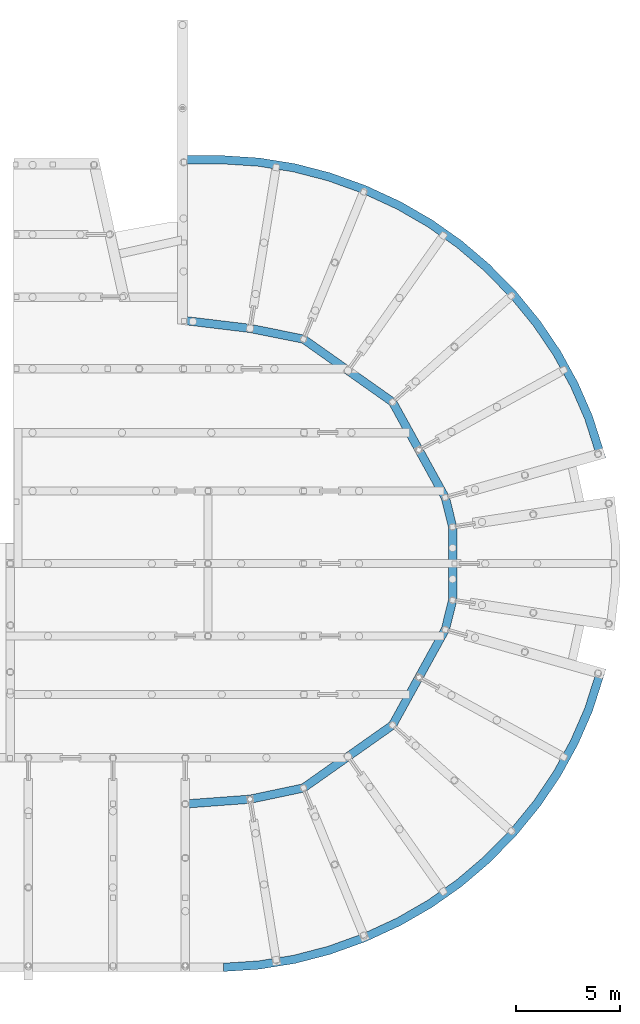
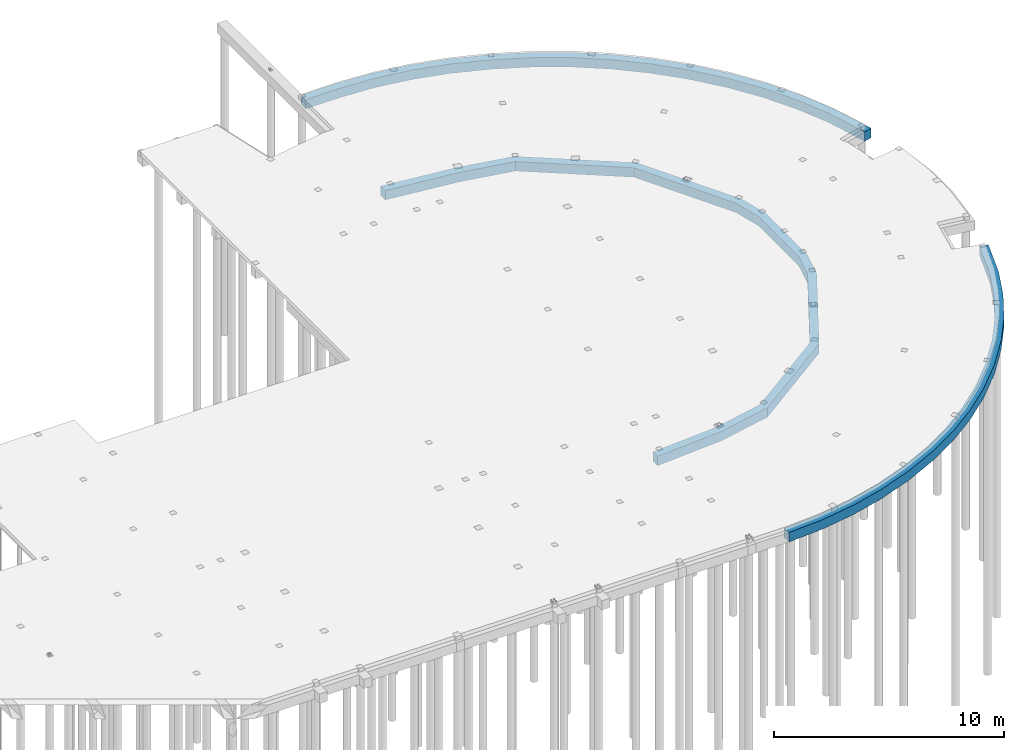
# One storey, part 14 of 22: 3 beams.
"""IFC2X3 building model written with IfcOpenShell, lengths in millimetres."""

from ifc_helpers import new_model, si_unit, frame, origin_with_axes, place, context, subcontext, project, spatial, faceted_brep, material, type_object, element, save


model = new_model("IFC2X3")

# Units and contexts
model_context = context("Model", 3, precision=1e-05, world=origin_with_axes())
body_context = subcontext(model_context, "Body", "Model", "MODEL_VIEW")
ifc_project = project(units=[si_unit("LENGTHUNIT", "METRE", prefix="MILLI"), si_unit("AREAUNIT", "SQUARE_METRE"), si_unit("VOLUMEUNIT", "CUBIC_METRE"), si_unit("MASSUNIT", "GRAM", prefix="KILO"), si_unit("TIMEUNIT", "SECOND"), si_unit("PLANEANGLEUNIT", "RADIAN"), si_unit("SOLIDANGLEUNIT", "STERADIAN"), si_unit("THERMODYNAMICTEMPERATUREUNIT", "DEGREE_CELSIUS"), si_unit("LUMINOUSINTENSITYUNIT", "LUMEN")], contexts=[model_context])

# Site, building, storey
site_placement = place(None, origin_with_axes())
site = spatial("IfcSite", under=ifc_project, at=site_placement, Name="Undefined", CompositionType="ELEMENT")
building_placement = place(site_placement, origin_with_axes())
building = spatial("IfcBuilding", under=site, at=building_placement, Name="Undefined", CompositionType="ELEMENT")
storey_placement = place(building_placement, origin_with_axes())
storey = spatial("IfcBuildingStorey", under=building, at=storey_placement, Name="Undefined", CompositionType="ELEMENT", Elevation=0.0)

# Beams
ifc_material = material(Name="CONCRETE/C30/37")
beam_type = type_object("IfcBeamType", Name="400*500", PredefinedType="NOTDEFINED")
beam_1_placement = place(storey_placement, frame((51200.5757738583, 185.390933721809, -520.0), z_axis=(0.0, 0.0, 1.0), x_axis=(0.999584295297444, 0.028831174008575, 0.0)))
element("IfcBeam", 1, at=beam_1_placement, inside=storey, type_object=beam_type, material=ifc_material, Name="BALK", context=body_context, shape_type="Brep", body=[
    faceted_brep([(17734.8170125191, 11968.866591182, 250.0), (17006.8515711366, 10426.9746135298, 250.0), (16140.8424051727, 8951.94555849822, 250.0), (15149.269239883, 7573.42245923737, 250.0), (13967.4899059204, 6207.2503414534, 250.0), (12666.8136143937, 4956.21239228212, 250.0), (11336.8975890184, 3888.59267311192, 250.0), (9915.86873042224, 2946.01750641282, 250.0), (8415.0887106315, 2136.12272711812, 250.0), (6754.3557615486, 1424.19048890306, 250.0), (5036.67913997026, 862.252996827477, 250.0), (3373.95138209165, 482.361506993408, 250.0), (1680.41014982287, 261.219065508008, 250.0), (18.6596427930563, 200.000000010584, 250.0), (-1.13352143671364e-07, 199.999999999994, 250.0), (1.13359419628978e-07, -199.999999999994, 250.0), (26.0251659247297, -199.999999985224, 250.0), (1713.74136234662, -137.824355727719, 250.0), (3444.55300204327, 88.1848517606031, 250.0), (5143.63688979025, 476.382803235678, 250.0), (6895.62243091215, 1049.54445005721, 250.0), (8589.22366989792, 1775.56684961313, 250.0), (10121.8268417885, 2602.63496837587, 250.0), (11573.1380212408, 3565.29654180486, 250.0), (12931.1894480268, 4655.50258129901, 250.0), (14258.0044882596, 5931.68173338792, 250.0), (15463.520390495, 7325.29403125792, 250.0), (16476.3943472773, 8733.43030898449, 250.0), (17360.892571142, 10239.9508293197, 250.0), (18105.3656307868, 11816.8073296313, 250.0), (18804.6165104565, 13808.0202645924, 250.0), (18422.7321033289, 13927.7993101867, 250.0), (17360.892571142, 10239.9508293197, -250.0), (18105.3656307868, 11816.8073296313, -250.0), (16476.3943472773, 8733.43030898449, -250.0), (15463.520390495, 7325.29403125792, -250.0), (14258.0044882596, 5931.68173338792, -250.0), (12931.1894480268, 4655.50258129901, -250.0), (11573.1380212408, 3565.29654180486, -250.0), (10121.8268417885, 2602.63496837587, -250.0), (8589.22366989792, 1775.56684961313, -250.0), (6895.62243091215, 1049.54445005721, -250.0), (5143.63688979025, 476.382803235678, -250.0), (3444.55300204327, 88.1848517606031, -250.0), (1713.74136234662, -137.824355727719, -250.0), (26.0251659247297, -199.999999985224, -250.0), (1.13359419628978e-07, -199.999999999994, -250.0), (-1.13352143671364e-07, 199.999999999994, -250.0), (18.6596427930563, 200.000000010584, -250.0), (1680.41014982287, 261.219065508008, -250.0), (3373.95138209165, 482.361506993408, -250.0), (5036.67913997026, 862.252996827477, -250.0), (6754.3557615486, 1424.19048890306, -250.0), (8415.0887106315, 2136.12272711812, -250.0), (9915.86873042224, 2946.01750641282, -250.0), (11336.8975890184, 3888.59267311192, -250.0), (12666.8136143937, 4956.21239228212, -250.0), (13967.4899059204, 6207.2503414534, -250.0), (15149.269239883, 7573.42245923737, -250.0), (16140.8424051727, 8951.94555849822, -250.0), (17006.8515711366, 10426.9746135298, -250.0), (17734.8170125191, 11968.866591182, -250.0), (18422.7321033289, 13927.7993101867, -250.0), (18804.6165104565, 13808.0202645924, -250.0)], [[[0, 1, 2, 3, 4, 5, 6, 7, 8, 9, 10, 11, 12, 13, 14, 15, 16, 17, 18, 19, 20, 21, 22, 23, 24, 25, 26, 27, 28, 29, 30, 31]], [[28, 32, 33, 29]], [[27, 34, 32, 28]], [[26, 35, 34, 27]], [[25, 36, 35, 26]], [[24, 37, 36, 25]], [[23, 38, 37, 24]], [[22, 39, 38, 23]], [[21, 40, 39, 22]], [[20, 41, 40, 21]], [[19, 42, 41, 20]], [[18, 43, 42, 19]], [[17, 44, 43, 18]], [[16, 45, 44, 17]], [[15, 46, 45, 16]], [[33, 32, 34, 35, 36, 37, 38, 39, 40, 41, 42, 43, 44, 45, 46, 47, 48, 49, 50, 51, 52, 53, 54, 55, 56, 57, 58, 59, 60, 61, 62, 63]], [[29, 33, 63, 30]], [[62, 31, 30, 63]], [[61, 0, 31, 62]], [[60, 1, 0, 61]], [[59, 2, 1, 60]], [[58, 3, 2, 59]], [[57, 4, 3, 58]], [[56, 5, 4, 57]], [[55, 6, 5, 56]], [[54, 7, 6, 55]], [[53, 8, 7, 54]], [[52, 9, 8, 53]], [[51, 10, 9, 52]], [[50, 11, 10, 51]], [[49, 12, 11, 50]], [[48, 13, 12, 49]], [[47, 14, 13, 48]], [[46, 15, 14, 47]]]),
])
beam_2_placement = place(storey_placement, frame((49428.2500276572, 39049.0842396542, -520.0), z_axis=(0.0, 0.0, 1.0), x_axis=(0.999999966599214, -0.000258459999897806, 0.0)))
element("IfcBeam", 2, at=beam_2_placement, inside=storey, type_object=beam_type, material=ifc_material, Name="BALK", context=body_context, shape_type="Brep", body=[
    faceted_brep([(18474.3061060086, -10910.468236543, 250.0), (18474.3061060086, -10910.468236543, -250.0), (19157.9181263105, -12472.5307065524, -250.0), (19157.9181263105, -12472.5307065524, 250.0), (17650.7962602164, -9411.2970913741, 250.0), (17650.7962602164, -9411.2970913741, -250.0), (16699.016233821, -8005.00478229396, 250.0), (16699.016233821, -8005.00478229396, -250.0), (15556.7547949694, -6605.62368524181, 250.0), (15556.7547949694, -6605.62368524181, -250.0), (14292.355234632, -5317.93252766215, 250.0), (14292.355234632, -5317.93252766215, -250.0), (12993.4871024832, -4212.74925125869, 250.0), (12993.4871024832, -4212.74925125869, -250.0), (11599.970461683, -3229.95612270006, 250.0), (11599.970461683, -3229.95612270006, -250.0), (10122.9441681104, -2377.51049433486, 250.0), (10122.9441681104, -2377.51049433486, -250.0), (8483.231185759, -1618.41710394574, 250.0), (8483.231185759, -1618.41710394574, -250.0), (6782.31200729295, -1007.63017755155, 250.0), (6782.31200729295, -1007.63017755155, -250.0), (5131.11768989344, -580.384970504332, 250.0), (5131.11768989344, -580.384970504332, -250.0), (3444.65879718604, -310.955107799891, 250.0), (3444.65879718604, -310.955107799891, -250.0), (1738.58828852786, -199.999999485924, 250.0), (1738.58828852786, -199.999999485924, -250.0), (1.13359419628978e-07, -199.999999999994, 250.0), (1.13359419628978e-07, -199.999999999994, -250.0), (-1.13352143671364e-07, 199.999999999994, -250.0), (1751.58165901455, 200.000000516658, -250.0), (3489.2879140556, 86.987446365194, -250.0), (5212.95322297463, -188.386539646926, -250.0), (6900.25148749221, -624.973614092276, -250.0), (8635.14487187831, -1247.96041516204, -250.0), (10307.3101288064, -2022.07735381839, -250.0), (11815.6558907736, -2892.59858722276, -250.0), (13238.8685632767, -3896.33517282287, -250.0), (14565.2152546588, -5024.89945563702, -250.0), (15855.0245365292, -6338.46840909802, -250.0), (17020.2288089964, -7765.95670348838, -250.0), (17992.4547980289, -9202.45872406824, -250.0), (18833.5463529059, -10733.6367615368, -250.0), (19532.660216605, -12331.1211478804, -250.0), (20174.7310319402, -14341.5006676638, -250.0), (19789.5801178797, -14450.3192945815, -250.0), (19789.5801178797, -14450.3192945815, 250.0), (19532.660216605, -12331.1211478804, 250.0), (18833.5463529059, -10733.6367615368, 250.0), (17992.4547980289, -9202.45872406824, 250.0), (17020.2288089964, -7765.95670348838, 250.0), (15855.0245365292, -6338.46840909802, 250.0), (14565.2152546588, -5024.89945563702, 250.0), (13238.8685632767, -3896.33517282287, 250.0), (11815.6558907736, -2892.59858722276, 250.0), (10307.3101288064, -2022.07735381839, 250.0), (8635.14487187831, -1247.96041516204, 250.0), (6900.25148749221, -624.973614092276, 250.0), (5212.95322297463, -188.386539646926, 250.0), (3489.2879140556, 86.987446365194, 250.0), (1751.58165901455, 200.000000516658, 250.0), (-1.13352143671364e-07, 199.999999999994, 250.0), (20174.7310319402, -14341.5006676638, 250.0)], [[[0, 1, 2, 3]], [[4, 5, 1, 0]], [[6, 7, 5, 4]], [[8, 9, 7, 6]], [[10, 11, 9, 8]], [[12, 13, 11, 10]], [[14, 15, 13, 12]], [[16, 17, 15, 14]], [[18, 19, 17, 16]], [[20, 21, 19, 18]], [[22, 23, 21, 20]], [[24, 25, 23, 22]], [[26, 27, 25, 24]], [[28, 29, 27, 26]], [[2, 1, 5, 7, 9, 11, 13, 15, 17, 19, 21, 23, 25, 27, 29, 30, 31, 32, 33, 34, 35, 36, 37, 38, 39, 40, 41, 42, 43, 44, 45, 46]], [[3, 2, 46, 47]], [[48, 49, 50, 51, 52, 53, 54, 55, 56, 57, 58, 59, 60, 61, 62, 28, 26, 24, 22, 20, 18, 16, 14, 12, 10, 8, 6, 4, 0, 3, 47, 63]], [[46, 45, 63, 47]], [[44, 48, 63, 45]], [[43, 49, 48, 44]], [[42, 50, 49, 43]], [[41, 51, 50, 42]], [[40, 52, 51, 41]], [[39, 53, 52, 40]], [[38, 54, 53, 39]], [[37, 55, 54, 38]], [[36, 56, 55, 37]], [[35, 57, 56, 36]], [[34, 58, 57, 35]], [[33, 59, 58, 34]], [[32, 60, 59, 33]], [[31, 61, 60, 32]], [[30, 62, 61, 31]], [[29, 28, 62, 30]]]),
])
beam_3_placement = place(storey_placement, frame((49348.8131956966, 8045.64904309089, -520.0), z_axis=(0.0, 0.0, 1.0), x_axis=(0.997283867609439, 0.0736538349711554, 0.0)))
element("IfcBeam", 3, at=beam_3_placement, inside=storey, type_object=beam_type, material=ifc_material, Name="BALK", context=body_context, shape_type="Brep", body=[
    faceted_brep([(4757.03404153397, 22400.9919504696, 250.0), (7237.84472454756, 21708.9748853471, 250.0), (11222.956734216, 18432.0259057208, 250.0), (13387.6629315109, 13709.3417623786, 250.0), (13621.8633384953, 12344.3188666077, 250.0), (13364.9955626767, 8865.81085328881, 250.0), (12932.8457015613, 7549.14505688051, 250.0), (10098.0277392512, 3199.11920325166, 250.0), (5671.35882349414, 543.235086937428, 250.0), (3130.92682646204, 200.000000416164, 250.0), (-172.932551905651, 199.999999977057, 250.0), (-202.474325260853, -200.000000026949, 250.0), (3157.82641149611, -199.99999958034, 250.0), (5806.53007703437, 157.863557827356, 250.0), (10382.8370017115, 2903.52651657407, 250.0), (13296.564007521, 7374.6382331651, 250.0), (13760.3062266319, 8787.55901179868, 250.0), (14024.3833817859, 12363.6965689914, 250.0), (13773.0637232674, 13828.4979860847, 250.0), (11548.1843162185, 18682.4604820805, 250.0), (7426.6689510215, 22071.5736457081, 250.0), (4849.43255832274, 22790.4884652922, 250.0), (1360.61137803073, 23475.2415732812, 250.0), (1330.93613124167, 23073.4343231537, 250.0), (7426.6689510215, 22071.5736457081, -250.0), (4849.43255832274, 22790.4884652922, -250.0), (11548.1843162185, 18682.4604820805, -250.0), (13773.0637232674, 13828.4979860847, -250.0), (14024.3833817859, 12363.6965689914, -250.0), (13760.3062266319, 8787.55901179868, -250.0), (13296.564007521, 7374.6382331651, -250.0), (10382.8370017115, 2903.52651657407, -250.0), (5806.53007703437, 157.863557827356, -250.0), (3157.82641149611, -199.99999958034, -250.0), (-202.474325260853, -200.000000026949, -250.0), (-172.932551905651, 199.999999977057, -250.0), (3130.92682646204, 200.000000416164, -250.0), (5671.35882349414, 543.235086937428, -250.0), (10098.0277392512, 3199.11920325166, -250.0), (12932.8457015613, 7549.14505688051, -250.0), (13364.9955626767, 8865.81085328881, -250.0), (13621.8633384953, 12344.3188666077, -250.0), (13387.6629315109, 13709.3417623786, -250.0), (11222.956734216, 18432.0259057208, -250.0), (7237.84472454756, 21708.9748853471, -250.0), (4757.03404153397, 22400.9919504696, -250.0), (1330.93613124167, 23073.4343231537, -250.0), (1360.61137803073, 23475.2415732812, -250.0)], [[[0, 1, 2, 3, 4, 5, 6, 7, 8, 9, 10, 11, 12, 13, 14, 15, 16, 17, 18, 19, 20, 21, 22, 23]], [[20, 24, 25, 21]], [[19, 26, 24, 20]], [[18, 27, 26, 19]], [[17, 28, 27, 18]], [[16, 29, 28, 17]], [[15, 30, 29, 16]], [[14, 31, 30, 15]], [[13, 32, 31, 14]], [[12, 33, 32, 13]], [[11, 34, 33, 12]], [[25, 24, 26, 27, 28, 29, 30, 31, 32, 33, 34, 35, 36, 37, 38, 39, 40, 41, 42, 43, 44, 45, 46, 47]], [[21, 25, 47, 22]], [[46, 23, 22, 47]], [[45, 0, 23, 46]], [[44, 1, 0, 45]], [[43, 2, 1, 44]], [[42, 3, 2, 43]], [[41, 4, 3, 42]], [[40, 5, 4, 41]], [[39, 6, 5, 40]], [[38, 7, 6, 39]], [[37, 8, 7, 38]], [[36, 9, 8, 37]], [[35, 10, 9, 36]], [[34, 11, 10, 35]]]),
])

save(model, "model.ifc")
